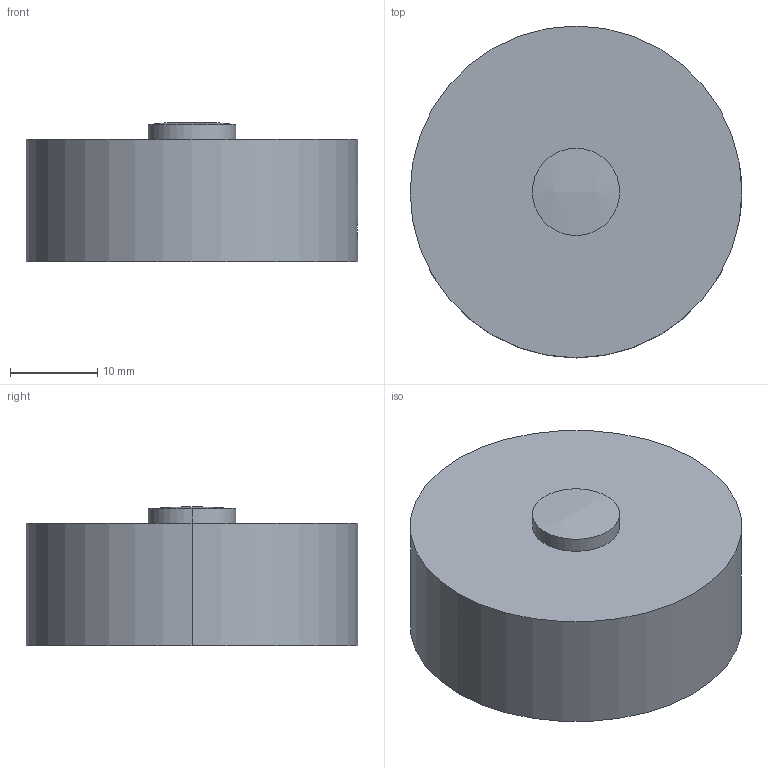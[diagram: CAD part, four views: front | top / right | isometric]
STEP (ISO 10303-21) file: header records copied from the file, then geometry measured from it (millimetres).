
FILE_DESCRIPTION((''),'1');
FILE_NAME('LKLD_1000-2500_kg.step','2018-01-11T16:20:27',(''),(''),'','','');
FILE_SCHEMA(('AUTOMOTIVE_DESIGN { 1 0 10303 214 1 1 1 1 }'));
Products named in the file (1): LKLD 1000-2500_kg
Bounding box: 38 x 38 x 15.92 mm (x, y, z)
Volume: 15591.9 mm3; surface area: 4278.8 mm2
Topology: 1 solids, 1 shells, 22 faces, 45 edges, 30 vertices
Faces by surface type: cylinder 14, plane 7, sphere 1
Entity records: 824 total; most frequent: CARTESIAN_POINT 134, DIRECTION 113, ORIENTED_EDGE 90, AXIS2_PLACEMENT_3D 49, EDGE_CURVE 45, VERTEX_POINT 30, EDGE_LOOP 27, CIRCLE 26
